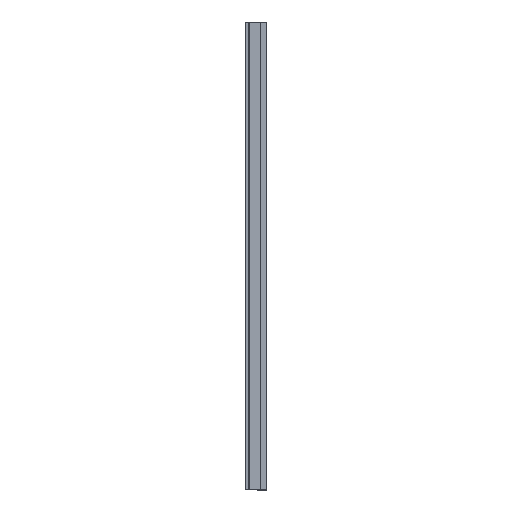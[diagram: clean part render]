
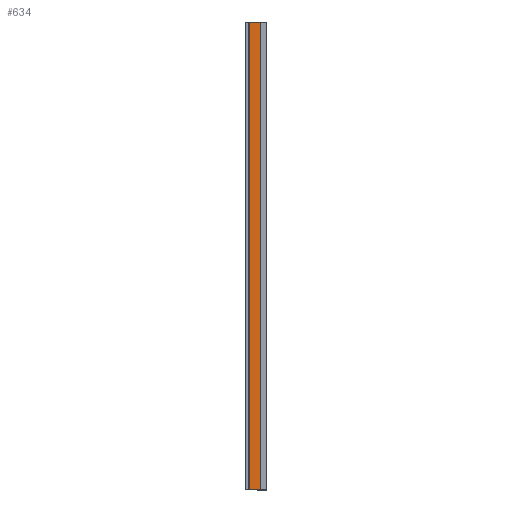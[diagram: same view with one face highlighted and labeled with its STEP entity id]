
A CAD part, top view. The second image highlights one B-rep face of the part: STEP entity #634.
In plain terms, the highlighted planar face has unit normal (0, 0, 1).
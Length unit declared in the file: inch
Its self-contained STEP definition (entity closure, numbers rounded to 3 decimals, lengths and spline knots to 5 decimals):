
#15=PLANE('',#690);
#36=FACE_OUTER_BOUND('',#70,.T.);
#70=EDGE_LOOP('',(#431,#432,#433,#434));
#104=LINE('',#952,#172);
#105=LINE('',#955,#173);
#106=LINE('',#957,#174);
#107=LINE('',#958,#175);
#172=VECTOR('',#758,0.3937);
#173=VECTOR('',#761,0.3937);
#174=VECTOR('',#762,0.3937);
#175=VECTOR('',#763,0.3937);
#267=VERTEX_POINT('',#945);
#270=VERTEX_POINT('',#950);
#271=VERTEX_POINT('',#954);
#272=VERTEX_POINT('',#956);
#334=EDGE_CURVE('',#267,#270,#104,.T.);
#335=EDGE_CURVE('',#271,#267,#105,.T.);
#336=EDGE_CURVE('',#272,#270,#106,.T.);
#337=EDGE_CURVE('',#271,#272,#107,.T.);
#431=ORIENTED_EDGE('',*,*,#335,.T.);
#432=ORIENTED_EDGE('',*,*,#334,.T.);
#433=ORIENTED_EDGE('',*,*,#336,.F.);
#434=ORIENTED_EDGE('',*,*,#337,.F.);
#634=ADVANCED_FACE('',(#36),#15,.T.);
#690=AXIS2_PLACEMENT_3D('',#953,#759,#760);
#758=DIRECTION('',(0.,1.,0.));
#759=DIRECTION('center_axis',(0.,0.,1.));
#760=DIRECTION('ref_axis',(1.,0.,0.));
#761=DIRECTION('',(1.,0.,0.));
#762=DIRECTION('',(1.,0.,0.));
#763=DIRECTION('',(0.,1.,0.));
#945=CARTESIAN_POINT('',(3.59704,0.,-4.21496));
#950=CARTESIAN_POINT('',(3.59704,120.,-4.21496));
#952=CARTESIAN_POINT('',(3.59704,0.,-4.21496));
#953=CARTESIAN_POINT('Origin',(0.66466,0.,-4.21496));
#954=CARTESIAN_POINT('',(0.66466,0.,-4.21496));
#955=CARTESIAN_POINT('',(0.66466,0.,-4.21496));
#956=CARTESIAN_POINT('',(0.66466,120.,-4.21496));
#957=CARTESIAN_POINT('',(0.66466,120.,-4.21496));
#958=CARTESIAN_POINT('',(0.66466,0.,-4.21496));
